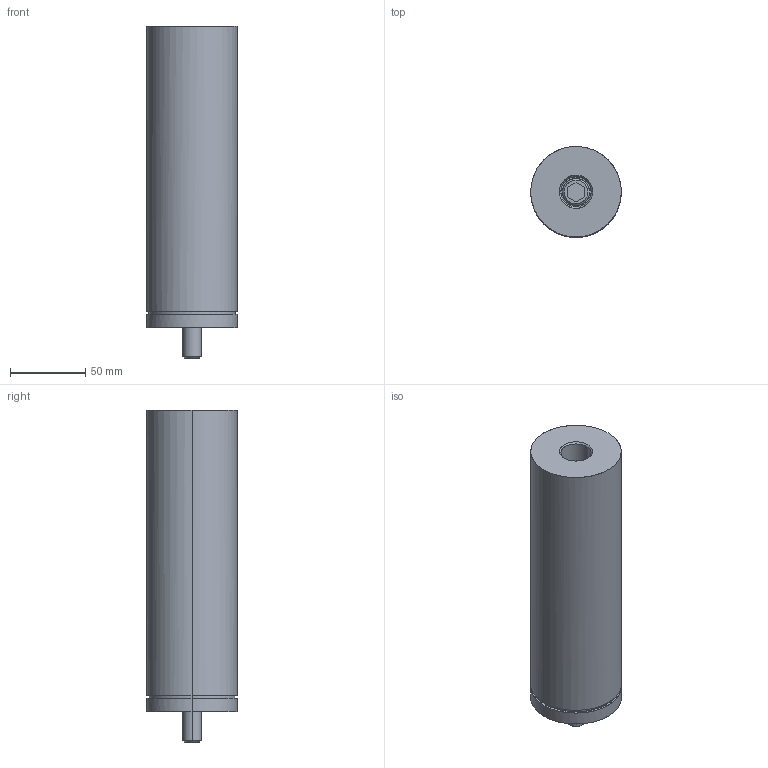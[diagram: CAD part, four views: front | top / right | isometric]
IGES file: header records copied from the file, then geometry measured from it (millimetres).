
Global section: file name: E:\UnigraphicsGraphicData\MISUMI_PRESS-PARTS\IGES\3d_sbn60-200-r_00585_r00.igs; native system: NX V5.0; preprocessor: UGS NX IGES V5.0; author: MISUMI; date: 20110105.162428; units: millimetre
Bounding box: 60 x 60 x 220 mm (x, y, z)
Surface area: 59717 mm2 (no closed solid volume)
Topology: 0 solids, 0 shells, 35 faces, 276 edges, 276 vertices
Faces by surface type: bspline 35
